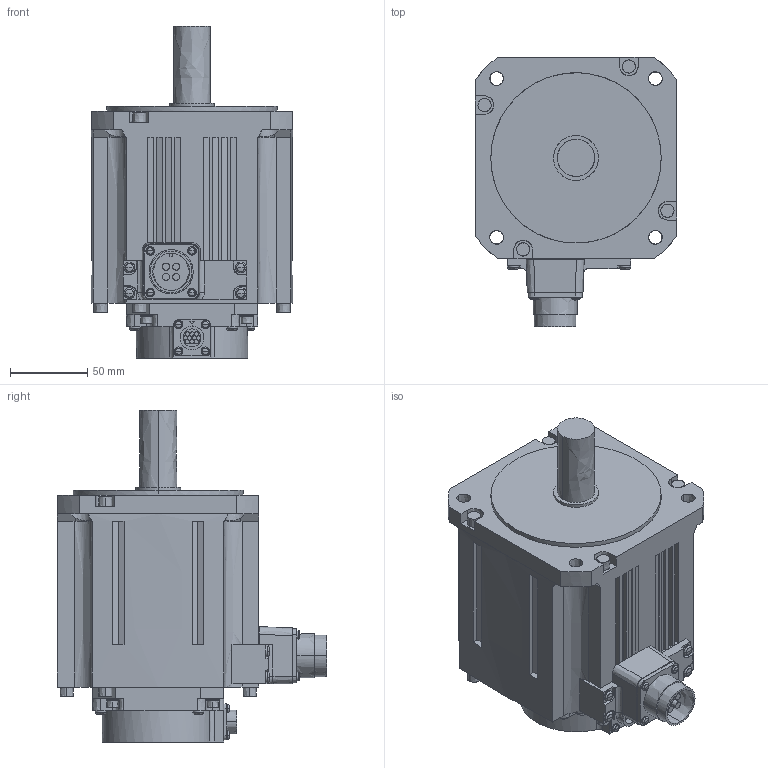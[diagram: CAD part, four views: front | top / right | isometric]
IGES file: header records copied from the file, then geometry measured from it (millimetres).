
Start section:  PTC IGES file: hk-st202aw_.igs
Global section: file name: hk-st202aw_.igs; native system: Creo Parametric by PTC Inc.; preprocessor: 2016380; author: XE90682; organization: Unknown; date: 20190117.161121; units: millimetre
Bounding box: 130 x 173.8 x 214.5 mm (x, y, z)
Volume: 2130931.3 mm3; surface area: 132490.6 mm2
Topology: 1 solids, 1 shells, 507 faces, 1241 edges, 782 vertices
Faces by surface type: bspline 507
